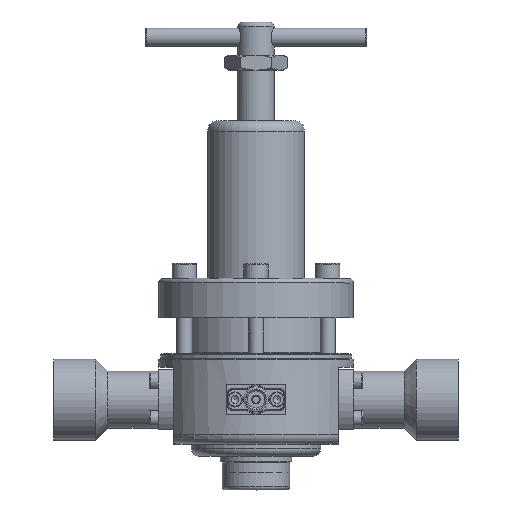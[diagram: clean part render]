
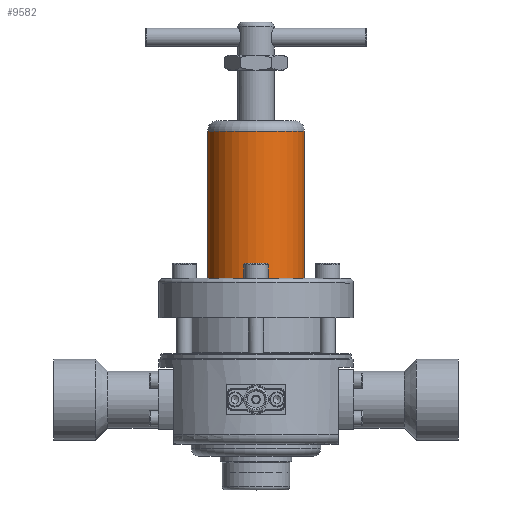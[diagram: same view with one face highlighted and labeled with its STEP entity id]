
A CAD part, top view. The second image highlights one B-rep face of the part: STEP entity #9582.
In plain terms, the highlighted cylindrical face has radius 32.25 mm (diameter 64.5 mm), a full revolution.
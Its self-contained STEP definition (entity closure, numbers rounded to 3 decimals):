
#1263=LINE('',#20643,#1685);
#1685=VECTOR('',#13680,32.25);
#1870=CYLINDRICAL_SURFACE('',#11119,32.25);
#2370=FACE_OUTER_BOUND('',#3006,.T.);
#3006=EDGE_LOOP('',(#8607,#8608,#8609,#8610,#8611));
#3627=CIRCLE('',#11113,32.25);
#3630=CIRCLE('',#11116,32.25);
#3632=CIRCLE('',#11120,32.25);
#4743=VERTEX_POINT('',#20630);
#4744=VERTEX_POINT('',#20631);
#4747=VERTEX_POINT('',#20641);
#6051=EDGE_CURVE('',#4743,#4744,#3627,.T.);
#6054=EDGE_CURVE('',#4744,#4743,#3630,.T.);
#6056=EDGE_CURVE('',#4747,#4747,#3632,.T.);
#6057=EDGE_CURVE('',#4747,#4743,#1263,.T.);
#8607=ORIENTED_EDGE('',*,*,#6056,.F.);
#8608=ORIENTED_EDGE('',*,*,#6057,.T.);
#8609=ORIENTED_EDGE('',*,*,#6054,.F.);
#8610=ORIENTED_EDGE('',*,*,#6051,.F.);
#8611=ORIENTED_EDGE('',*,*,#6057,.F.);
#9582=ADVANCED_FACE('',(#2370),#1870,.T.);
#11113=AXIS2_PLACEMENT_3D('',#20632,#13664,#13665);
#11116=AXIS2_PLACEMENT_3D('',#20636,#13670,#13671);
#11119=AXIS2_PLACEMENT_3D('',#20640,#13676,#13677);
#11120=AXIS2_PLACEMENT_3D('',#20642,#13678,#13679);
#13664=DIRECTION('center_axis',(0.,1.,0.));
#13665=DIRECTION('ref_axis',(-1.,0.,0.));
#13670=DIRECTION('center_axis',(0.,1.,0.));
#13671=DIRECTION('ref_axis',(-1.,0.,0.));
#13676=DIRECTION('center_axis',(0.,-1.,0.));
#13677=DIRECTION('ref_axis',(1.,0.,0.));
#13678=DIRECTION('center_axis',(0.,-1.,0.));
#13679=DIRECTION('ref_axis',(1.,0.,0.));
#13680=DIRECTION('',(0.,1.,0.));
#20630=CARTESIAN_POINT('',(-32.25,108.,0.));
#20631=CARTESIAN_POINT('',(0.,108.,32.25));
#20632=CARTESIAN_POINT('Origin',(0.,108.,0.));
#20636=CARTESIAN_POINT('Origin',(0.,108.,0.));
#20640=CARTESIAN_POINT('Origin',(0.,61.5,
0.));
#20641=CARTESIAN_POINT('',(-32.25,8.,0.));
#20642=CARTESIAN_POINT('Origin',(0.,8.,
0.));
#20643=CARTESIAN_POINT('',(-32.25,61.5,0.));
